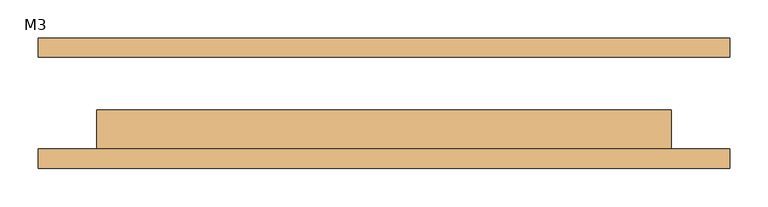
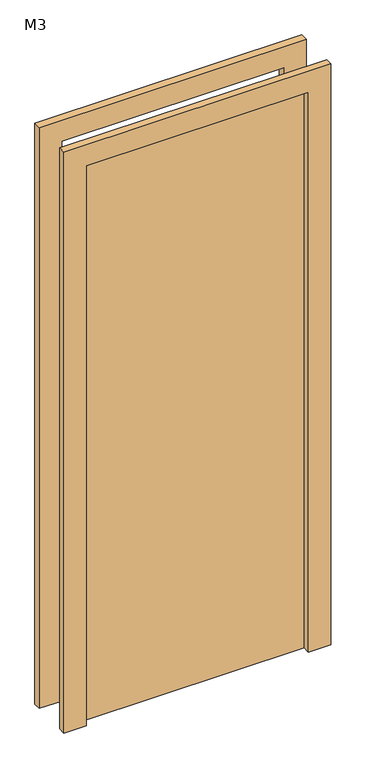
"""IFC4 building model written with IfcOpenShell, lengths in millimetres: door geometry, 单扇 - 与墙齐 : M3."""

from ifc_helpers import new_model, si_unit, frame, origin, origin_with_axes, place, context, project, spatial, polyline, outline, extrude, source, transform, mapped, element, save


def m3_11f5f102(model_context):
    return source(origin(), model_context, "Body", "SweptSolid", [
        extrude(outline(polyline([(2076.0, -451.0), (0.0, -451.0), (0.0, -375.0), (2000.0, -375.0), (2000.0, 375.0), (0.0, 375.0), (0.0, 451.0), (2076.0, 451.0), (2076.0, -451.0)])), frame((0.0, -85.0, 0.0), z_axis=(0.0, 1.0, 0.0), x_axis=(0.0, 0.0, 1.0)), (0.0, 0.0, 1.0), 25.0),
        extrude(outline(polyline([(2076.0, 451.0), (2076.0, -451.0), (0.0, -451.0), (0.0, -375.0), (2000.0, -375.0), (2000.0, 375.0), (0.0, 375.0), (0.0, 451.0), (2076.0, 451.0)])), frame((0.0, 60.0, 0.0), z_axis=(0.0, 1.0, 0.0), x_axis=(0.0, 0.0, 1.0)), (0.0, 0.0, 1.0), 25.0),
        extrude(outline(polyline([(375.0, -9.0), (375.0, -60.0), (-375.0, -60.0), (-375.0, -9.0), (375.0, -9.0)])), origin_with_axes(), (0.0, 0.0, 1.0), 2000.0),
    ])


if __name__ == "__main__":
    model = new_model("IFC4")
    model_context = context("Model", 3, world=origin())
    ifc_project = project(units=[si_unit("LENGTHUNIT", "METRE", prefix="MILLI")], contexts=[model_context])
    site = spatial("IfcSite", under=ifc_project)
    building = spatial("IfcBuilding", under=site)
    placement = place(None, origin())
    m3_shape = m3_11f5f102(model_context)
    element("IfcDoor", 1, ObjectType="单扇 - 与墙齐 : M3", at=placement, inside=building, context=model_context, shape_type="MappedRepresentation", body=[
        mapped(m3_shape, transform((0.0, 0.0, 0.0), x_axis=(1.0, 0.0, 0.0), y_axis=(0.0, 1.0, 0.0), z_axis=(0.0, 0.0, 1.0))),
    ])
    save(model, "model.ifc")
